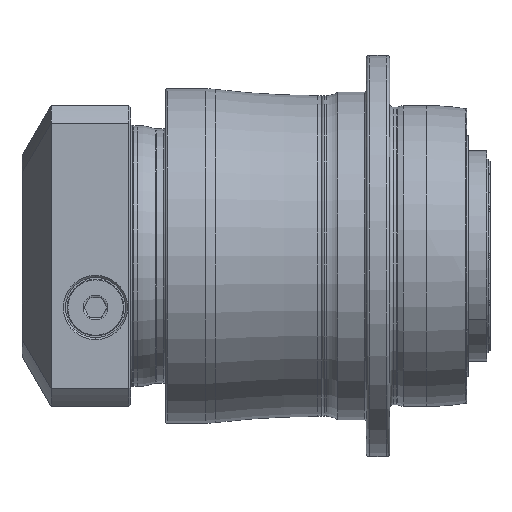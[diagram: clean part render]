
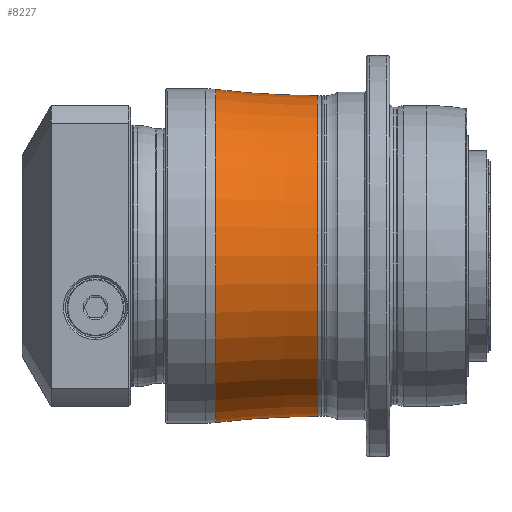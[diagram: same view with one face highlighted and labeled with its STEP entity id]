
A CAD part, top view. The second image highlights one B-rep face of the part: STEP entity #8227.
In plain terms, the highlighted toroidal (fillet/blend) face has major radius 305 mm and minor radius 257 mm.
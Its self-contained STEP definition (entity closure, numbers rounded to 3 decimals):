
#7083=CARTESIAN_POINT('',(-55.5,305.,0.));
#7084=DIRECTION('',(0.,0.,1.));
#7085=DIRECTION('',(0.,-1.,0.));
#7086=AXIS2_PLACEMENT_3D('',#7083,#7084,#7085);
#7093=CARTESIAN_POINT('',(-55.5,-305.,0.));
#7094=DIRECTION('',(0.,0.,-1.));
#7095=DIRECTION('',(0.,1.,0.));
#7096=AXIS2_PLACEMENT_3D('',#7093,#7094,#7095);
#7146=CARTESIAN_POINT('',(-24.946,0.,0.));
#7147=DIRECTION('',(1.,0.,0.));
#7148=DIRECTION('',(0.,1.,0.));
#7149=AXIS2_PLACEMENT_3D('',#7146,#7147,#7148);
#7151=CARTESIAN_POINT('',(-55.5,0.,0.));
#7152=DIRECTION('',(1.,0.,0.));
#7153=DIRECTION('',(0.,1.,0.));
#7154=AXIS2_PLACEMENT_3D('',#7151,#7152,#7153);
#7546=CARTESIAN_POINT('',(-55.5,48.,0.));
#7547=VERTEX_POINT('',#7546);
#7548=CARTESIAN_POINT('',(-55.5,-48.,0.));
#7549=VERTEX_POINT('',#7548);
#7586=CARTESIAN_POINT('',(-24.946,49.823,0.));
#7587=CARTESIAN_POINT('',(-24.946,-49.823,0.));
#7588=VERTEX_POINT('',#7586);
#7589=VERTEX_POINT('',#7587);
#8216=CARTESIAN_POINT('',(-55.5,0.,0.));
#8217=DIRECTION('',(1.,0.,0.));
#8218=DIRECTION('',(0.,-1.,0.));
#8219=AXIS2_PLACEMENT_3D('',#8216,#8217,#8218);
#8220=TOROIDAL_SURFACE('',#8219,305.,257.);
#8221=ORIENTED_EDGE('',*,*,#8210,.T.);
#8222=ORIENTED_EDGE('',*,*,#8078,.F.);
#8223=ORIENTED_EDGE('',*,*,#8048,.F.);
#8224=ORIENTED_EDGE('',*,*,#8075,.T.);
#8225=EDGE_LOOP('',(#8221,#8222,#8223,#8224));
#8226=FACE_OUTER_BOUND('',#8225,.F.);
#8227=ADVANCED_FACE('',(#8226),#8220,.F.);
#7087=CIRCLE('',#7086,257.);
#7097=CIRCLE('',#7096,257.);
#7150=CIRCLE('',#7149,49.823);
#7155=CIRCLE('',#7154,48.);
#8048=EDGE_CURVE('',#7547,#7549,#7155,.T.);
#8075=EDGE_CURVE('',#7547,#7588,#7087,.T.);
#8078=EDGE_CURVE('',#7549,#7589,#7097,.T.);
#8210=EDGE_CURVE('',#7588,#7589,#7150,.T.);
